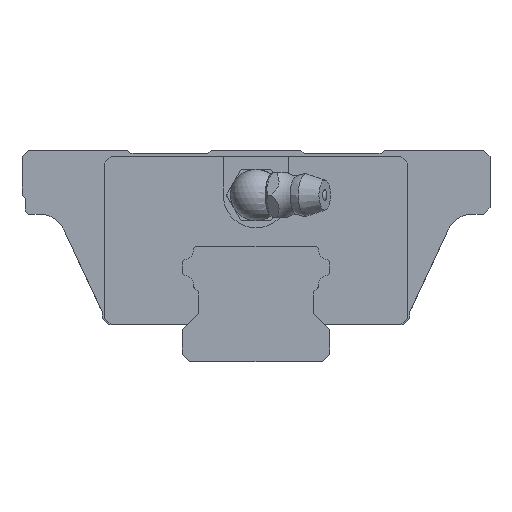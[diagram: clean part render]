
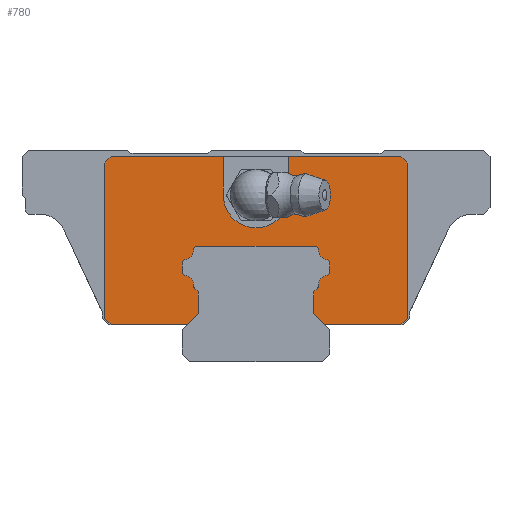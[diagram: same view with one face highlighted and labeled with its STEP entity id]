
A CAD part, front view. The second image highlights one B-rep face of the part: STEP entity #780.
In plain terms, the highlighted planar face has unit normal (0, -1, 0).
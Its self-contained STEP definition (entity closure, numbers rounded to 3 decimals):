
#574=CIRCLE('',#3884,0.5);
#576=CIRCLE('',#3887,1.7);
#578=CIRCLE('',#3890,0.5);
#580=CIRCLE('',#3897,0.5);
#582=CIRCLE('',#3900,1.7);
#584=CIRCLE('',#3903,0.5);
#586=CIRCLE('',#3907,0.5);
#588=CIRCLE('',#3910,1.7);
#590=CIRCLE('',#3913,0.5);
#592=CIRCLE('',#3917,0.5);
#594=CIRCLE('',#3920,1.7);
#596=CIRCLE('',#3923,0.5);
#611=CIRCLE('',#3978,5.1);
#780=ADVANCED_FACE('',(#1060),#921,.T.);
#921=PLANE('',#3979);
#1060=FACE_OUTER_BOUND('',#1283,.T.);
#1283=EDGE_LOOP('',(#2007,#2008,#2009,#2010,#2011,#2012,#2013,#2014,#2015,
#2016,#2017,#2018,#2019,#2020,#2021,#2022,#2023,#2024,#2025,#2026,#2027,
#2028,#2029,#2030,#2031,#2032,#2033,#2034,#2035,#2036,#2037,#2038,#2039,
#2040));
#2007=ORIENTED_EDGE('',*,*,#2956,.F.);
#2008=ORIENTED_EDGE('',*,*,#2915,.F.);
#2009=ORIENTED_EDGE('',*,*,#2912,.F.);
#2010=ORIENTED_EDGE('',*,*,#2909,.F.);
#2011=ORIENTED_EDGE('',*,*,#2906,.F.);
#2012=ORIENTED_EDGE('',*,*,#2903,.F.);
#2013=ORIENTED_EDGE('',*,*,#2900,.F.);
#2014=ORIENTED_EDGE('',*,*,#2954,.F.);
#2015=ORIENTED_EDGE('',*,*,#2952,.F.);
#2016=ORIENTED_EDGE('',*,*,#2949,.F.);
#2017=ORIENTED_EDGE('',*,*,#2946,.F.);
#2018=ORIENTED_EDGE('',*,*,#2943,.F.);
#2019=ORIENTED_EDGE('',*,*,#2940,.F.);
#2020=ORIENTED_EDGE('',*,*,#2937,.F.);
#2021=ORIENTED_EDGE('',*,*,#2934,.F.);
#2022=ORIENTED_EDGE('',*,*,#2931,.F.);
#2023=ORIENTED_EDGE('',*,*,#2928,.F.);
#2024=ORIENTED_EDGE('',*,*,#2925,.F.);
#2025=ORIENTED_EDGE('',*,*,#2922,.F.);
#2026=ORIENTED_EDGE('',*,*,#2919,.F.);
#2027=ORIENTED_EDGE('',*,*,#2958,.F.);
#2028=ORIENTED_EDGE('',*,*,#2835,.T.);
#2029=ORIENTED_EDGE('',*,*,#2980,.T.);
#2030=ORIENTED_EDGE('',*,*,#2977,.T.);
#2031=ORIENTED_EDGE('',*,*,#2982,.T.);
#2032=ORIENTED_EDGE('',*,*,#2988,.T.);
#2033=ORIENTED_EDGE('',*,*,#2998,.F.);
#2034=ORIENTED_EDGE('',*,*,#2999,.F.);
#2035=ORIENTED_EDGE('',*,*,#3000,.F.);
#2036=ORIENTED_EDGE('',*,*,#2984,.T.);
#2037=ORIENTED_EDGE('',*,*,#2989,.T.);
#2038=ORIENTED_EDGE('',*,*,#2973,.T.);
#2039=ORIENTED_EDGE('',*,*,#2979,.T.);
#2040=ORIENTED_EDGE('',*,*,#2825,.T.);
#2463=VERTEX_POINT('',#5451);
#2465=VERTEX_POINT('',#5454);
#2468=VERTEX_POINT('',#5463);
#2470=VERTEX_POINT('',#5469);
#2502=VERTEX_POINT('',#5592);
#2504=VERTEX_POINT('',#5596);
#2506=VERTEX_POINT('',#5601);
#2508=VERTEX_POINT('',#5607);
#2510=VERTEX_POINT('',#5613);
#2512=VERTEX_POINT('',#5619);
#2514=VERTEX_POINT('',#5625);
#2516=VERTEX_POINT('',#5631);
#2518=VERTEX_POINT('',#5635);
#2520=VERTEX_POINT('',#5640);
#2522=VERTEX_POINT('',#5646);
#2524=VERTEX_POINT('',#5652);
#2526=VERTEX_POINT('',#5658);
#2528=VERTEX_POINT('',#5664);
#2530=VERTEX_POINT('',#5670);
#2532=VERTEX_POINT('',#5676);
#2534=VERTEX_POINT('',#5682);
#2536=VERTEX_POINT('',#5688);
#2538=VERTEX_POINT('',#5694);
#2540=VERTEX_POINT('',#5700);
#2546=VERTEX_POINT('',#5752);
#2547=VERTEX_POINT('',#5754);
#2549=VERTEX_POINT('',#5760);
#2550=VERTEX_POINT('',#5762);
#2551=VERTEX_POINT('',#5770);
#2552=VERTEX_POINT('',#5774);
#2553=VERTEX_POINT('',#5776);
#2556=VERTEX_POINT('',#5782);
#2565=VERTEX_POINT('',#5814);
#2566=VERTEX_POINT('',#5816);
#2825=EDGE_CURVE('',#2465,#2463,#3247,.T.);
#2835=EDGE_CURVE('',#2468,#2470,#3257,.T.);
#2900=EDGE_CURVE('',#2504,#2502,#3303,.T.);
#2903=EDGE_CURVE('',#2502,#2506,#574,.T.);
#2906=EDGE_CURVE('',#2506,#2508,#576,.T.);
#2909=EDGE_CURVE('',#2508,#2510,#578,.T.);
#2912=EDGE_CURVE('',#2510,#2512,#3309,.T.);
#2915=EDGE_CURVE('',#2512,#2514,#3312,.T.);
#2919=EDGE_CURVE('',#2518,#2516,#3316,.T.);
#2922=EDGE_CURVE('',#2516,#2520,#3319,.T.);
#2925=EDGE_CURVE('',#2520,#2522,#580,.T.);
#2928=EDGE_CURVE('',#2522,#2524,#582,.T.);
#2931=EDGE_CURVE('',#2524,#2526,#584,.T.);
#2934=EDGE_CURVE('',#2526,#2528,#3325,.T.);
#2937=EDGE_CURVE('',#2528,#2530,#586,.T.);
#2940=EDGE_CURVE('',#2530,#2532,#588,.T.);
#2943=EDGE_CURVE('',#2532,#2534,#590,.T.);
#2946=EDGE_CURVE('',#2534,#2536,#3331,.T.);
#2949=EDGE_CURVE('',#2536,#2538,#592,.T.);
#2952=EDGE_CURVE('',#2538,#2540,#594,.T.);
#2954=EDGE_CURVE('',#2540,#2504,#596,.T.);
#2956=EDGE_CURVE('',#2514,#2463,#3335,.T.);
#2958=EDGE_CURVE('',#2468,#2518,#3337,.T.);
#2973=EDGE_CURVE('',#2547,#2546,#3347,.T.);
#2977=EDGE_CURVE('',#2550,#2549,#3350,.T.);
#2979=EDGE_CURVE('',#2546,#2465,#3352,.T.);
#2980=EDGE_CURVE('',#2470,#2550,#3353,.T.);
#2982=EDGE_CURVE('',#2549,#2551,#3355,.T.);
#2984=EDGE_CURVE('',#2553,#2552,#3357,.T.);
#2988=EDGE_CURVE('',#2551,#2556,#3361,.T.);
#2989=EDGE_CURVE('',#2552,#2547,#3362,.T.);
#2998=EDGE_CURVE('',#2565,#2556,#3363,.T.);
#2999=EDGE_CURVE('',#2566,#2565,#611,.T.);
#3000=EDGE_CURVE('',#2553,#2566,#3364,.T.);
#3247=LINE('',#5453,#3557);
#3257=LINE('',#5470,#3567);
#3303=LINE('',#5597,#3613);
#3309=LINE('',#5621,#3619);
#3312=LINE('',#5627,#3622);
#3316=LINE('',#5636,#3626);
#3319=LINE('',#5642,#3629);
#3325=LINE('',#5666,#3635);
#3331=LINE('',#5690,#3641);
#3335=LINE('',#5708,#3645);
#3337=LINE('',#5711,#3647);
#3347=LINE('',#5753,#3657);
#3350=LINE('',#5761,#3660);
#3352=LINE('',#5765,#3662);
#3353=LINE('',#5767,#3663);
#3355=LINE('',#5771,#3665);
#3357=LINE('',#5775,#3667);
#3361=LINE('',#5783,#3671);
#3362=LINE('',#5785,#3672);
#3363=LINE('',#5813,#3673);
#3364=LINE('',#5817,#3674);
#3557=VECTOR('',#4399,1.);
#3567=VECTOR('',#4411,1.);
#3613=VECTOR('',#4551,1.);
#3619=VECTOR('',#4577,1.);
#3622=VECTOR('',#4582,1.);
#3626=VECTOR('',#4588,1.);
#3629=VECTOR('',#4593,1.);
#3635=VECTOR('',#4619,1.);
#3641=VECTOR('',#4645,1.);
#3645=VECTOR('',#4669,1.);
#3647=VECTOR('',#4673,1.);
#3657=VECTOR('',#4735,1.);
#3660=VECTOR('',#4742,1.);
#3662=VECTOR('',#4746,1.);
#3663=VECTOR('',#4749,1.);
#3665=VECTOR('',#4753,1.);
#3667=VECTOR('',#4757,1.);
#3671=VECTOR('',#4761,1.);
#3672=VECTOR('',#4764,1.);
#3673=VECTOR('',#4803,1.);
#3674=VECTOR('',#4806,1.);
#3884=AXIS2_PLACEMENT_3D('',#5603,#4557,#4558);
#3887=AXIS2_PLACEMENT_3D('',#5609,#4564,#4565);
#3890=AXIS2_PLACEMENT_3D('',#5615,#4571,#4572);
#3897=AXIS2_PLACEMENT_3D('',#5648,#4599,#4600);
#3900=AXIS2_PLACEMENT_3D('',#5654,#4606,#4607);
#3903=AXIS2_PLACEMENT_3D('',#5660,#4613,#4614);
#3907=AXIS2_PLACEMENT_3D('',#5672,#4625,#4626);
#3910=AXIS2_PLACEMENT_3D('',#5678,#4632,#4633);
#3913=AXIS2_PLACEMENT_3D('',#5684,#4639,#4640);
#3917=AXIS2_PLACEMENT_3D('',#5696,#4651,#4652);
#3920=AXIS2_PLACEMENT_3D('',#5702,#4658,#4659);
#3923=AXIS2_PLACEMENT_3D('',#5705,#4664,#4665);
#3978=AXIS2_PLACEMENT_3D('',#5815,#4804,#4805);
#3979=AXIS2_PLACEMENT_3D('',#5818,#4807,#4808);
#4399=DIRECTION('',(1.,0.,0.));
#4411=DIRECTION('',(1.,0.,0.));
#4551=DIRECTION('',(0.,0.,-1.));
#4557=DIRECTION('',(0.,-1.,0.));
#4558=DIRECTION('',(0.,0.,-1.));
#4564=DIRECTION('',(0.,1.,0.));
#4565=DIRECTION('',(0.,0.,-1.));
#4571=DIRECTION('',(0.,-1.,0.));
#4572=DIRECTION('',(0.,0.,-1.));
#4577=DIRECTION('',(0.707,0.,-0.707));
#4582=DIRECTION('',(0.,0.,-1.));
#4588=DIRECTION('',(0.,0.,1.));
#4593=DIRECTION('',(0.707,0.,0.707));
#4599=DIRECTION('',(0.,-1.,0.));
#4600=DIRECTION('',(0.,0.,-1.));
#4606=DIRECTION('',(0.,1.,0.));
#4607=DIRECTION('',(0.,0.,-1.));
#4613=DIRECTION('',(0.,-1.,0.));
#4614=DIRECTION('',(0.,0.,-1.));
#4619=DIRECTION('',(0.,0.,1.));
#4625=DIRECTION('',(0.,-1.,0.));
#4626=DIRECTION('',(0.,0.,-1.));
#4632=DIRECTION('',(0.,1.,0.));
#4633=DIRECTION('',(0.,0.,-1.));
#4639=DIRECTION('',(0.,-1.,0.));
#4640=DIRECTION('',(0.,0.,-1.));
#4645=DIRECTION('',(-1.,0.,0.));
#4651=DIRECTION('',(0.,-1.,0.));
#4652=DIRECTION('',(0.,0.,-1.));
#4658=DIRECTION('',(0.,1.,0.));
#4659=DIRECTION('',(0.,0.,-1.));
#4664=DIRECTION('',(0.,-1.,0.));
#4665=DIRECTION('',(0.,0.,-1.));
#4669=DIRECTION('',(-0.707,0.,-0.707));
#4673=DIRECTION('',(-0.707,0.,0.707));
#4735=DIRECTION('',(0.,0.,-1.));
#4742=DIRECTION('',(0.,0.,1.));
#4746=DIRECTION('',(0.707,0.,-0.707));
#4749=DIRECTION('',(0.707,0.,0.707));
#4753=DIRECTION('',(-0.707,0.,0.707));
#4757=DIRECTION('',(-1.,0.,0.));
#4761=DIRECTION('',(-1.,0.,0.));
#4764=DIRECTION('',(-0.707,0.,-0.707));
#4803=DIRECTION('',(0.,0.,1.));
#4804=DIRECTION('',(0.,-1.,0.));
#4805=DIRECTION('',(1.,0.,0.));
#4806=DIRECTION('',(0.,0.,-1.));
#4807=DIRECTION('',(0.,-1.,0.));
#4808=DIRECTION('',(0.,0.,-1.));
#5451=CARTESIAN_POINT('',(-10.7,-19.,5.8));
#5453=CARTESIAN_POINT('',(-22.6,-19.,5.8));
#5454=CARTESIAN_POINT('',(-22.6,-19.,5.8));
#5463=CARTESIAN_POINT('',(10.7,-19.,5.8));
#5469=CARTESIAN_POINT('',(22.6,-19.,5.8));
#5470=CARTESIAN_POINT('',(-22.6,-19.,5.8));
#5592=CARTESIAN_POINT('',(-11.5,-19.,13.995));
#5596=CARTESIAN_POINT('',(-11.5,-19.,15.412));
#5597=CARTESIAN_POINT('',(-11.5,-19.,26.));
#5601=CARTESIAN_POINT('',(-11.097,-19.,13.504));
#5603=CARTESIAN_POINT('',(-11.,-19.,13.995));
#5607=CARTESIAN_POINT('',(-9.726,-19.,11.834));
#5609=CARTESIAN_POINT('',(-11.426,-19.,11.836));
#5613=CARTESIAN_POINT('',(-9.58,-19.,11.48));
#5615=CARTESIAN_POINT('',(-9.226,-19.,11.833));
#5619=CARTESIAN_POINT('',(-9.,-19.,10.9));
#5621=CARTESIAN_POINT('',(-12.05,-19.,13.95));
#5625=CARTESIAN_POINT('',(-9.,-19.,7.5));
#5627=CARTESIAN_POINT('',(-9.,-19.,26.));
#5631=CARTESIAN_POINT('',(9.,-19.,10.9));
#5635=CARTESIAN_POINT('',(9.,-19.,7.5));
#5636=CARTESIAN_POINT('',(9.,-19.,26.));
#5640=CARTESIAN_POINT('',(9.58,-19.,11.48));
#5642=CARTESIAN_POINT('',(12.05,-19.,13.95));
#5646=CARTESIAN_POINT('',(9.726,-19.,11.834));
#5648=CARTESIAN_POINT('',(9.226,-19.,11.833));
#5652=CARTESIAN_POINT('',(11.097,-19.,13.504));
#5654=CARTESIAN_POINT('',(11.426,-19.,11.836));
#5658=CARTESIAN_POINT('',(11.5,-19.,13.995));
#5660=CARTESIAN_POINT('',(11.,-19.,13.995));
#5664=CARTESIAN_POINT('',(11.5,-19.,15.412));
#5666=CARTESIAN_POINT('',(11.5,-19.,26.));
#5670=CARTESIAN_POINT('',(11.097,-19.,15.902));
#5672=CARTESIAN_POINT('',(11.,-19.,15.412));
#5676=CARTESIAN_POINT('',(9.727,-19.,17.516));
#5678=CARTESIAN_POINT('',(11.426,-19.,17.57));
#5682=CARTESIAN_POINT('',(9.227,-19.,18.));
#5684=CARTESIAN_POINT('',(9.227,-19.,17.5));
#5688=CARTESIAN_POINT('',(-9.227,-19.,18.));
#5690=CARTESIAN_POINT('',(0.,-19.,18.));
#5694=CARTESIAN_POINT('',(-9.727,-19.,17.516));
#5696=CARTESIAN_POINT('',(-9.227,-19.,17.5));
#5700=CARTESIAN_POINT('',(-11.097,-19.,15.902));
#5702=CARTESIAN_POINT('',(-11.426,-19.,17.57));
#5705=CARTESIAN_POINT('',(-11.,-19.,15.412));
#5708=CARTESIAN_POINT('',(4.75,-19.,21.25));
#5711=CARTESIAN_POINT('',(-4.75,-19.,21.25));
#5752=CARTESIAN_POINT('',(-23.6,-19.,6.8));
#5753=CARTESIAN_POINT('',(-23.6,-19.,31.));
#5754=CARTESIAN_POINT('',(-23.6,-19.,31.));
#5760=CARTESIAN_POINT('',(23.6,-19.,31.));
#5761=CARTESIAN_POINT('',(23.6,-19.,6.8));
#5762=CARTESIAN_POINT('',(23.6,-19.,6.8));
#5765=CARTESIAN_POINT('',(-23.6,-19.,6.8));
#5767=CARTESIAN_POINT('',(22.6,-19.,5.8));
#5770=CARTESIAN_POINT('',(22.6,-19.,32.));
#5771=CARTESIAN_POINT('',(23.6,-19.,31.));
#5774=CARTESIAN_POINT('',(-22.6,-19.,32.));
#5775=CARTESIAN_POINT('',(22.6,-19.,32.));
#5776=CARTESIAN_POINT('',(-5.1,-19.,32.));
#5782=CARTESIAN_POINT('',(5.1,-19.,32.));
#5783=CARTESIAN_POINT('',(22.6,-19.,32.));
#5785=CARTESIAN_POINT('',(-22.6,-19.,32.));
#5813=CARTESIAN_POINT('',(5.1,-19.,26.));
#5814=CARTESIAN_POINT('',(5.1,-19.,26.));
#5815=CARTESIAN_POINT('',(0.,-19.,26.));
#5816=CARTESIAN_POINT('',(-5.1,-19.,26.));
#5817=CARTESIAN_POINT('',(-5.1,-19.,32.));
#5818=CARTESIAN_POINT('',(0.,-19.,26.));
